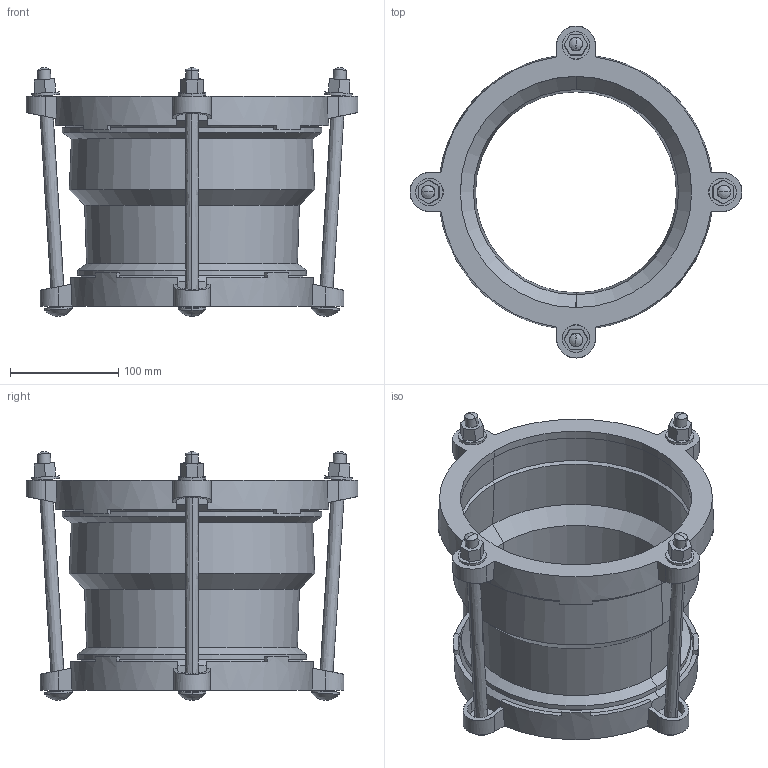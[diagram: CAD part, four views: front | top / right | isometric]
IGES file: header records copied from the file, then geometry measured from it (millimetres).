
Start section:  PTC IGES file: stepped_maxifit_184-189.igs
Global section: file name: stepped_maxifit_184-189.igs; native system: Creo Parametric by PTC Inc.; preprocessor: 2016130; author: MReader; organization: Unknown; date: 20181010.103814; units: millimetre
Bounding box: 306.5 x 306.5 x 229.56 mm (x, y, z)
Surface area: 418582.4 mm2 (no closed solid volume)
Topology: 0 solids, 0 shells, 282 faces, 1448 edges, 1432 vertices
Faces by surface type: revolution 160, bspline 122
